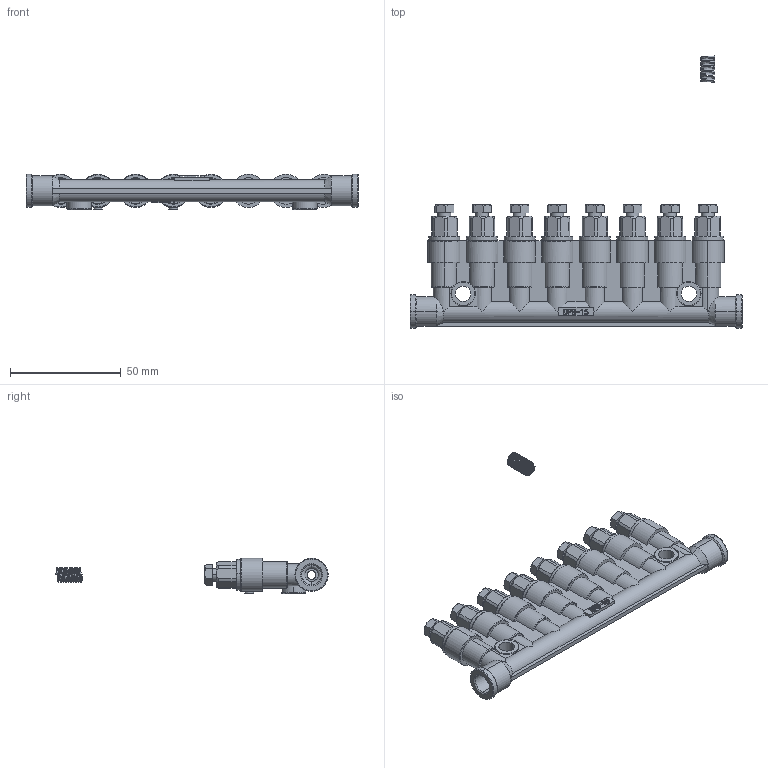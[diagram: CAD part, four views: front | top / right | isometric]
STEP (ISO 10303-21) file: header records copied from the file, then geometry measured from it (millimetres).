
FILE_DESCRIPTION (( 'STEP AP203' ), '1' );
FILE_NAME ('DPB18.SLDPRT.STEP', '2020-04-17T09:03:52', ( '个人用户' ), ( '微软中国' ), 'SwSTEP 2.0', 'SolidWorks 2018', '' );
FILE_SCHEMA (( 'CONFIG_CONTROL_DESIGN' ));
Length unit declared in the file: millimetre
Products named in the file (12): Y-型圈; 縐杶; 弹簧自然; 活塞杆; 堤諳諉芛; 活塞; 煦饜ん釱极.SLDPRT2; DPB18.SLDPRT; 絳杶; 单向密封型圈; 粟銅釱; e rings gb_GB_CONNECTING_PIECE_RINGS_HR 3
Assembly tree (45 placements, depth 2):
  DPB18.SLDPRT
    煦饜ん釱极.SLDPRT2
    单向密封型圈  x5
    活塞  x5
    活塞杆  x5
    e rings gb_GB_CONNECTING_PIECE_RINGS_HR 3
    絳杶  x8
    堤諳諉芛  x8
    縐杶  x9
    弹簧自然
    粟銅釱
    Y-型圈
Bounding box: 150 x 123.01 x 16 mm (x, y, z)
Volume: 48570.7 mm3; surface area: 43945.6 mm2
Topology: 45 solids, 45 shells, 1573 faces, 3670 edges, 2346 vertices
Faces by surface type: cylinder 639, plane 507, cone 258, torus 137, bspline 32
Entity records: 29740 total; most frequent: CARTESIAN_POINT 9689, DIRECTION 3869, ORIENTED_EDGE 3680, EDGE_CURVE 1840, AXIS2_PLACEMENT_3D 1513, VERTEX_POINT 1185, LINE 843, VECTOR 843
